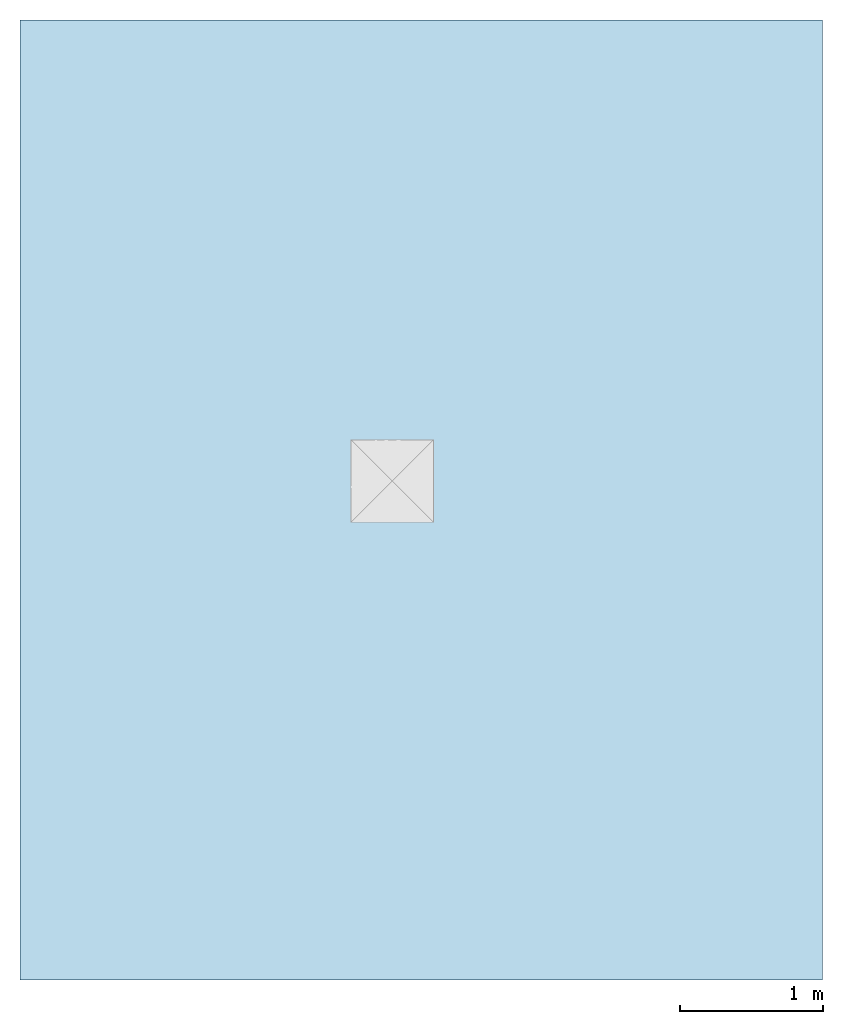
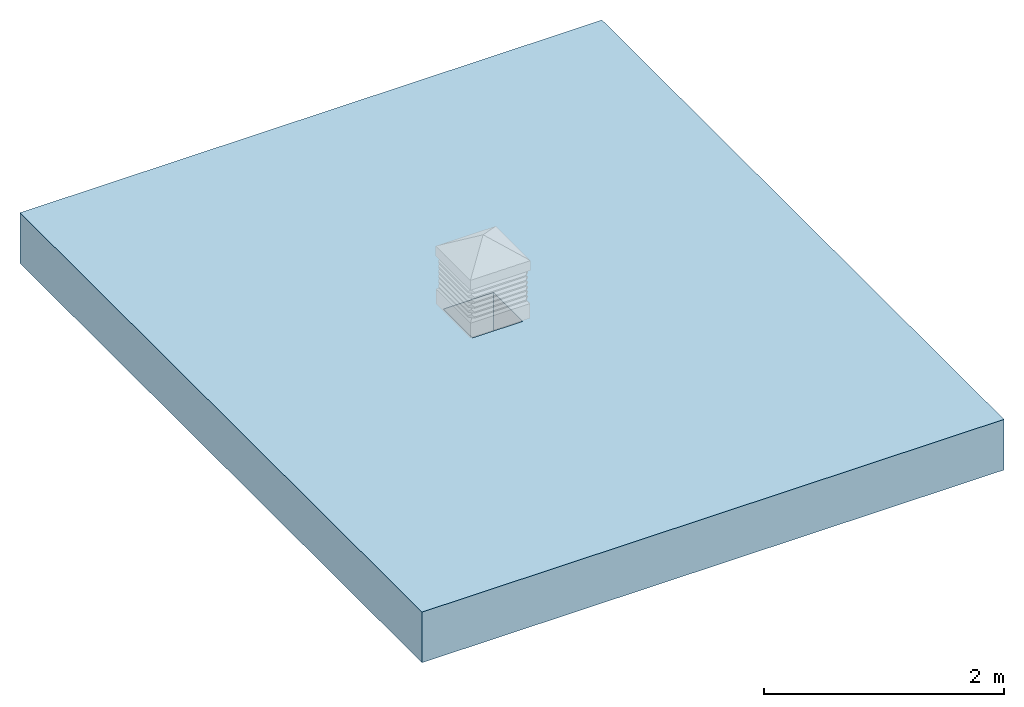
# One storey, incomplete: 1 slab, 1 opening, 1 element without a shape of its own.
"""IFC2X3 building model written with IfcOpenShell, lengths in millimetres."""

from ifc_helpers import new_model, entity, si_unit, converted_unit, derived_unit, direction, frame, origin, origin_2d_with_axis, place, context, subcontext, project, spatial, rectangle, extrude, material, layer, layer_set, type_object, element, aggregate, save


model = new_model("IFC2X3")

# Units and contexts
model_context = context("Model", 3, precision=0.01, world=origin(), true_north=direction((6.123031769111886e-17, 1.0)))
body_context = subcontext(model_context, "Body", "Model", "MODEL_VIEW")
ifc_project = project(units=[si_unit("LENGTHUNIT", "METRE", prefix="MILLI"), si_unit("AREAUNIT", "SQUARE_METRE"), si_unit("VOLUMEUNIT", "CUBIC_METRE"), converted_unit("PLANEANGLEUNIT", "DEGREE", entity("IfcPlaneAngleMeasure", 0.017453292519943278), si_unit("PLANEANGLEUNIT", "RADIAN"), dimensions=[0, 0, 0, 0, 0, 0, 0]), si_unit("MASSUNIT", "GRAM", prefix="KILO"), derived_unit("MASSDENSITYUNIT", [(si_unit("MASSUNIT", "GRAM", prefix="KILO"), 1), (si_unit("LENGTHUNIT", "METRE"), -3)]), derived_unit("IONCONCENTRATIONUNIT", [(si_unit("MASSUNIT", "GRAM", prefix="KILO"), 1), (si_unit("LENGTHUNIT", "METRE"), -3)]), derived_unit("MOMENTOFINERTIAUNIT", [(si_unit("LENGTHUNIT", "METRE"), 4)]), si_unit("TIMEUNIT", "SECOND"), si_unit("FREQUENCYUNIT", "HERTZ"), si_unit("THERMODYNAMICTEMPERATUREUNIT", "DEGREE_CELSIUS"), derived_unit("THERMALTRANSMITTANCEUNIT", [(si_unit("MASSUNIT", "GRAM", prefix="KILO"), 1), (si_unit("THERMODYNAMICTEMPERATUREUNIT", "KELVIN"), -1), (si_unit("TIMEUNIT", "SECOND"), -3)]), derived_unit("THERMALCONDUCTANCEUNIT", [(si_unit("MASSUNIT", "GRAM", prefix="KILO"), 1), (si_unit("THERMODYNAMICTEMPERATUREUNIT", "KELVIN"), -1), (si_unit("TIMEUNIT", "SECOND"), -3), (si_unit("LENGTHUNIT", "METRE"), 1)]), derived_unit("VOLUMETRICFLOWRATEUNIT", [(si_unit("LENGTHUNIT", "METRE", prefix="DECI"), 3), (si_unit("TIMEUNIT", "SECOND"), -1)]), derived_unit("MASSFLOWRATEUNIT", [(si_unit("MASSUNIT", "GRAM", prefix="KILO"), 1), (si_unit("TIMEUNIT", "SECOND"), -1)]), derived_unit("ROTATIONALFREQUENCYUNIT", [(si_unit("TIMEUNIT", "SECOND"), -1)]), si_unit("ELECTRICCURRENTUNIT", "AMPERE"), si_unit("ELECTRICVOLTAGEUNIT", "VOLT"), si_unit("POWERUNIT", "WATT"), si_unit("FORCEUNIT", "NEWTON", prefix="KILO"), si_unit("ILLUMINANCEUNIT", "LUX"), si_unit("LUMINOUSFLUXUNIT", "LUMEN"), si_unit("LUMINOUSINTENSITYUNIT", "CANDELA"), si_unit("ENERGYUNIT", "JOULE"), derived_unit("USERDEFINED", [(si_unit("MASSUNIT", "GRAM", prefix="KILO"), -1), (si_unit("LENGTHUNIT", "METRE"), -2), (si_unit("TIMEUNIT", "SECOND"), 3), (si_unit("LUMINOUSFLUXUNIT", "LUMEN"), 1)]), derived_unit("USERDEFINED", [(si_unit("MASSUNIT", "GRAM", prefix="KILO"), 1), (si_unit("TIMEUNIT", "SECOND"), -3), (si_unit("LENGTHUNIT", "METRE"), 3), (si_unit("ELECTRICCURRENTUNIT", "AMPERE"), -2)]), derived_unit("SOUNDPOWERUNIT", [(si_unit("MASSUNIT", "GRAM", prefix="KILO"), 1), (si_unit("TIMEUNIT", "SECOND"), -3), (si_unit("LENGTHUNIT", "METRE"), 2)]), derived_unit("SOUNDPRESSUREUNIT", [(si_unit("MASSUNIT", "GRAM", prefix="KILO"), 1), (si_unit("LENGTHUNIT", "METRE"), -1), (si_unit("TIMEUNIT", "SECOND"), -2)]), derived_unit("LINEARVELOCITYUNIT", [(si_unit("LENGTHUNIT", "METRE"), 1), (si_unit("TIMEUNIT", "SECOND"), -1)]), si_unit("PRESSUREUNIT", "PASCAL"), derived_unit("USERDEFINED", [(si_unit("MASSUNIT", "GRAM", prefix="KILO"), 1), (si_unit("LENGTHUNIT", "METRE"), -2), (si_unit("TIMEUNIT", "SECOND"), -2)]), derived_unit("LINEARFORCEUNIT", [(si_unit("MASSUNIT", "GRAM", prefix="KILO"), 1), (si_unit("TIMEUNIT", "SECOND"), -2)]), derived_unit("PLANARFORCEUNIT", [(si_unit("MASSUNIT", "GRAM", prefix="KILO"), 1), (si_unit("LENGTHUNIT", "METRE"), -1), (si_unit("TIMEUNIT", "SECOND"), -2)]), derived_unit("SPECIFICHEATCAPACITYUNIT", [(si_unit("THERMODYNAMICTEMPERATUREUNIT", "KELVIN"), -1), (si_unit("LENGTHUNIT", "METRE"), 2), (si_unit("TIMEUNIT", "SECOND"), -2)]), derived_unit("HEATFLUXDENSITYUNIT", [(si_unit("MASSUNIT", "GRAM", prefix="KILO"), 1), (si_unit("TIMEUNIT", "SECOND"), -3)]), derived_unit("HEATINGVALUEUNIT", [(si_unit("LENGTHUNIT", "METRE"), 2), (si_unit("TIMEUNIT", "SECOND"), -2)]), derived_unit("VAPORPERMEABILITYUNIT", [(si_unit("LENGTHUNIT", "METRE"), -1), (si_unit("TIMEUNIT", "SECOND"), 1)]), derived_unit("DYNAMICVISCOSITYUNIT", [(si_unit("MASSUNIT", "GRAM", prefix="KILO"), 1), (si_unit("TIMEUNIT", "SECOND"), -1), (si_unit("LENGTHUNIT", "METRE"), -1)]), derived_unit("THERMALEXPANSIONCOEFFICIENTUNIT", [(si_unit("THERMODYNAMICTEMPERATUREUNIT", "KELVIN"), -1)]), derived_unit("MODULUSOFELASTICITYUNIT", [(si_unit("MASSUNIT", "GRAM", prefix="KILO"), 1), (si_unit("LENGTHUNIT", "METRE"), -1), (si_unit("TIMEUNIT", "SECOND"), -2)]), derived_unit("ISOTHERMALMOISTURECAPACITYUNIT", [(si_unit("MASSUNIT", "GRAM", prefix="KILO"), -1), (si_unit("LENGTHUNIT", "METRE"), 3)]), derived_unit("MOISTUREDIFFUSIVITYUNIT", [(si_unit("TIMEUNIT", "SECOND"), -1), (si_unit("LENGTHUNIT", "METRE"), 2)]), derived_unit("MASSPERLENGTHUNIT", [(si_unit("MASSUNIT", "GRAM", prefix="KILO"), 1), (si_unit("LENGTHUNIT", "METRE"), -1)]), derived_unit("THERMALRESISTANCEUNIT", [(si_unit("MASSUNIT", "GRAM", prefix="KILO"), -1), (si_unit("TIMEUNIT", "SECOND"), 3), (si_unit("THERMODYNAMICTEMPERATUREUNIT", "KELVIN"), 1)]), derived_unit("ACCELERATIONUNIT", [(si_unit("LENGTHUNIT", "METRE"), 1), (si_unit("TIMEUNIT", "SECOND"), -2)]), derived_unit("ANGULARVELOCITYUNIT", [(si_unit("TIMEUNIT", "SECOND"), -1), (si_unit("PLANEANGLEUNIT", "RADIAN"), 1)]), derived_unit("LINEARSTIFFNESSUNIT", [(si_unit("MASSUNIT", "GRAM", prefix="KILO"), 1), (si_unit("TIMEUNIT", "SECOND"), -2)]), derived_unit("WARPINGCONSTANTUNIT", [(si_unit("LENGTHUNIT", "METRE"), 6)]), derived_unit("LINEARMOMENTUNIT", [(si_unit("MASSUNIT", "GRAM", prefix="KILO"), 1), (si_unit("LENGTHUNIT", "METRE"), 1), (si_unit("TIMEUNIT", "SECOND"), -2)]), derived_unit("TORQUEUNIT", [(si_unit("MASSUNIT", "GRAM", prefix="KILO"), 1), (si_unit("LENGTHUNIT", "METRE"), 2), (si_unit("TIMEUNIT", "SECOND"), -2)])], contexts=[model_context])

# Site, building, storey
site_placement = place(None, origin())
site = spatial("IfcSite", under=ifc_project, at=site_placement, Name="Default", CompositionType="ELEMENT")
building_placement = place(site_placement, origin())
building = spatial("IfcBuilding", under=site, at=building_placement, CompositionType="ELEMENT")
storey_placement = place(building_placement, origin())
storey = spatial("IfcBuildingStorey", under=building, at=storey_placement, Name="Level 0", CompositionType="ELEMENT", Elevation=0.0)

# Roof, slab, opening
ifc_material_1 = material(Name="Roofing, Standing Seam")
ifc_layer_1 = layer(ifc_material_1, 50.0)
ifc_material_2 = material(Name="Rigid insulation")
ifc_layer_2 = layer(ifc_material_2, 220.0)
ifc_material_3 = material(Name="Metal Panel")
ifc_layer_3 = layer(ifc_material_3, 20.0)
ifc_material_4 = material(Name="Steel Purlins")
ifc_layer_4 = layer(ifc_material_4, 225.00000000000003)
ifc_layer_set = layer_set([ifc_layer_1, ifc_layer_2, ifc_layer_3, ifc_layer_4], Name="Basic Roof:Roof_Pitched-50SS-220Ins-20MPan-225Purl")
roof_placement = place(storey_placement, origin())
roof = element("IfcRoof", 1, at=roof_placement, inside=storey, material=ifc_layer_set, Name="Basic Roof:Roof_Pitched-50SS-220Ins-20MPan-225Purl", ObjectType="Basic Roof:Roof_Pitched-50SS-220Ins-20MPan-225Purl", ShapeType="NOTDEFINED")
slab_type = type_object("IfcSlabType", Name="Basic Roof:Roof_Pitched-50SS-220Ins-20MPan-225Purl", PredefinedType="ROOF")
slab_placement = place(storey_placement, origin())
slab = element("IfcSlab", 2, at=slab_placement, type_object=slab_type, Name="Basic Roof:Roof_Pitched-50SS-220Ins-20MPan-225Purl:1", ObjectType="Basic Roof:Roof_Pitched-50SS-220Ins-20MPan-225Purl", PredefinedType="ROOF", context=body_context, shape_type="SweptSolid", body=[
    extrude(rectangle(XDim=6700.0, YDim=5600.0, at=origin_2d_with_axis()), frame((202.3602529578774, -131.30560139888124, 0.0), z_axis=(0.0, 0.0, 1.0), x_axis=(0.0, -1.0, 0.0)), (0.0, 0.0, 1.0), 515.0),
])
opening_placement = place(storey_placement, origin())
element("IfcOpeningElement", 3, at=opening_placement, cuts=slab, Name="Basic Roof:Roof_Pitched-50SS-220Ins-20MPan-225Purl:1", ObjectType="Opening", context=body_context, shape_type="SweptSolid", body=[
    extrude(rectangle(XDim=483.9999999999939, YDim=483.9999999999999, at=origin_2d_with_axis()), origin(), (0.0, 0.0, 1.0), 515.0),
])
aggregate(roof, [slab])

save(model, "model.ifc")
